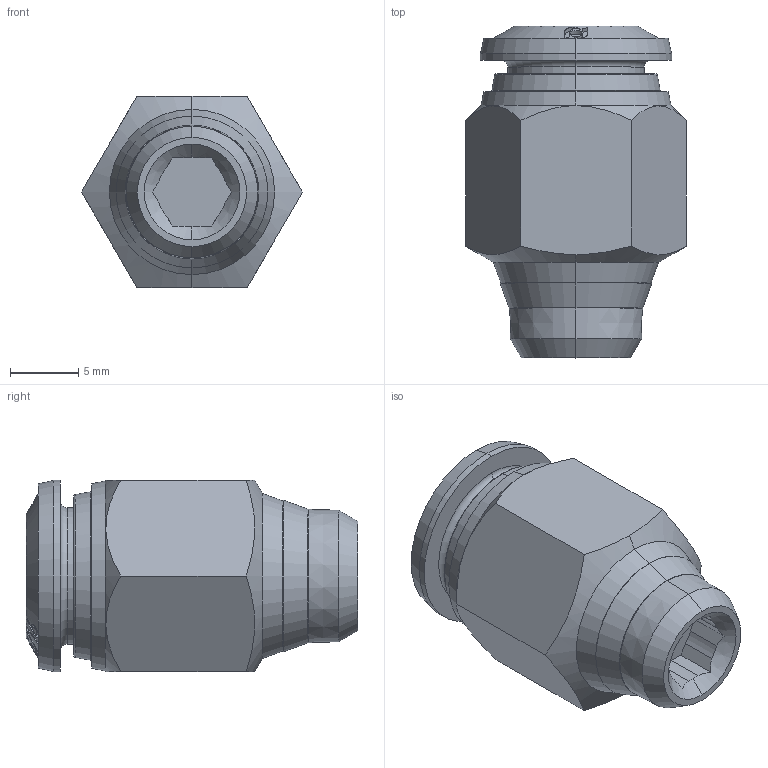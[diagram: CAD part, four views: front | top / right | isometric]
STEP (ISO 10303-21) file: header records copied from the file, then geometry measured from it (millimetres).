
FILE_DESCRIPTION (( 'STEP AP214' ), '1' );
FILE_NAME ('5500000006.step', '2012-10-02T17:30:32', ( '' ), ( '' ), 'SwSTEP 2.0', 'SolidWorks 2012', '' );
FILE_SCHEMA (( 'AUTOMOTIVE_DESIGN' ));
Length unit declared in the file: millimetre
Products named in the file (1): 5500000006
Bounding box: 16.17 x 24.3 x 14 mm (x, y, z)
Volume: 2667.2 mm3; surface area: 1930.6 mm2
Topology: 1 solids, 2 shells, 227 faces, 574 edges, 373 vertices
Faces by surface type: bspline 111, cone 55, plane 32, cylinder 23, torus 6
Entity records: 15082 total; most frequent: CARTESIAN_POINT 8080, ORIENTED_EDGE 1148, EDGE_CURVE 574, DIRECTION 528, B_SPLINE_CURVE_WITH_KNOTS 379, VERTEX_POINT 373, EDGE_LOOP 251, UNCERTAINTY_MEASURE_WITH_UNIT 230
